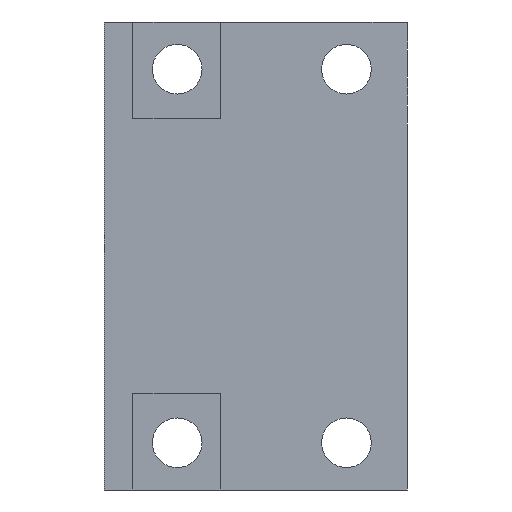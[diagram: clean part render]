
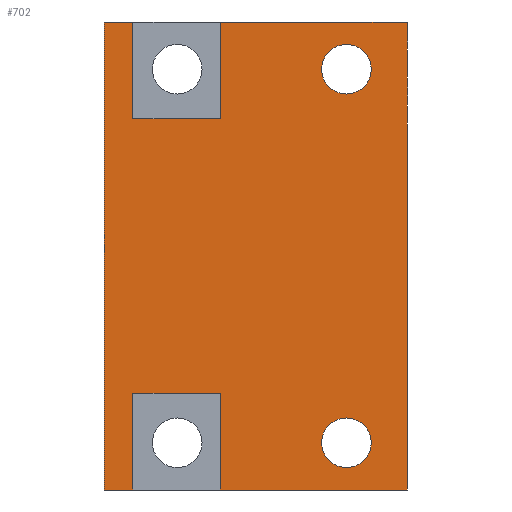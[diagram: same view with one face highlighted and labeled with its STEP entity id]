
A CAD part, front view. The second image highlights one B-rep face of the part: STEP entity #702.
In plain terms, the highlighted planar face has unit normal (0, -1, 0).
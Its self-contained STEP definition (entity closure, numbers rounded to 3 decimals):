
#96 = EDGE_CURVE ( 'NONE', #97, #98, #2308, .T. ) ;
#97 = VERTEX_POINT ( 'NONE', #2303 ) ;
#98 = VERTEX_POINT ( 'NONE', #2302 ) ;
#370 = EDGE_CURVE ( 'NONE', #371, #372, #2916, .T. ) ;
#371 = VERTEX_POINT ( 'NONE', #2906 ) ;
#372 = VERTEX_POINT ( 'NONE', #2905 ) ;
#416 = VERTEX_POINT ( 'NONE', #2898 ) ;
#418 = EDGE_CURVE ( 'NONE', #416, #419, #2897, .T. ) ;
#419 = VERTEX_POINT ( 'NONE', #2893 ) ;
#467 = VERTEX_POINT ( 'NONE', #2989 ) ;
#469 = EDGE_CURVE ( 'NONE', #467, #470, #3068, .T. ) ;
#470 = VERTEX_POINT ( 'NONE', #3182 ) ;
#503 = EDGE_CURVE ( 'NONE', #504, #505, #3023, .T. ) ;
#504 = VERTEX_POINT ( 'NONE', #3214 ) ;
#505 = VERTEX_POINT ( 'NONE', #3213 ) ;
#613 = VERTEX_POINT ( 'NONE', #3094 ) ;
#615 = EDGE_CURVE ( 'NONE', #616, #613, #3093, .T. ) ;
#616 = VERTEX_POINT ( 'NONE', #3089 ) ;
#622 = ORIENTED_EDGE ( 'NONE', *, *, #623, .T. ) ;
#623 = EDGE_CURVE ( 'NONE', #372, #371, #3465, .T. ) ;
#624 = ORIENTED_EDGE ( 'NONE', *, *, #370, .T. ) ;
#625 = EDGE_LOOP ( 'NONE', ( #626, #628 ) ) ;
#626 = ORIENTED_EDGE ( 'NONE', *, *, #627, .T. ) ;
#627 = EDGE_CURVE ( 'NONE', #98, #97, #3460, .T. ) ;
#628 = ORIENTED_EDGE ( 'NONE', *, *, #96, .T. ) ;
#629 = EDGE_LOOP ( 'NONE', ( #630, #631, #633, #634, #719, #720, #722, #723, #725, #726, #728, #704 ) ) ;
#630 = ORIENTED_EDGE ( 'NONE', *, *, #698, .T. ) ;
#631 = ORIENTED_EDGE ( 'NONE', *, *, #632, .F. ) ;
#632 = EDGE_CURVE ( 'NONE', #505, #696, #3432, .T. ) ;
#633 = ORIENTED_EDGE ( 'NONE', *, *, #503, .F. ) ;
#634 = ORIENTED_EDGE ( 'NONE', *, *, #718, .F. ) ;
#696 = VERTEX_POINT ( 'NONE', #3342 ) ;
#698 = EDGE_CURVE ( 'NONE', #699, #696, #3308, .T. ) ;
#699 = VERTEX_POINT ( 'NONE', #3304 ) ;
#702 = ADVANCED_FACE ( 'NONE', ( #3299, #3298, #3297 ), #3296, .F. ) ;
#703 = EDGE_LOOP ( 'NONE', ( #622, #624 ) ) ;
#704 = ORIENTED_EDGE ( 'NONE', *, *, #705, .F. ) ;
#705 = EDGE_CURVE ( 'NONE', #699, #416, #3291, .T. ) ;
#711 = EDGE_CURVE ( 'NONE', #712, #713, #3518, .T. ) ;
#712 = VERTEX_POINT ( 'NONE', #3514 ) ;
#713 = VERTEX_POINT ( 'NONE', #3513 ) ;
#718 = EDGE_CURVE ( 'NONE', #616, #504, #3508, .T. ) ;
#719 = ORIENTED_EDGE ( 'NONE', *, *, #615, .T. ) ;
#720 = ORIENTED_EDGE ( 'NONE', *, *, #721, .T. ) ;
#721 = EDGE_CURVE ( 'NONE', #613, #470, #3504, .T. ) ;
#722 = ORIENTED_EDGE ( 'NONE', *, *, #469, .F. ) ;
#723 = ORIENTED_EDGE ( 'NONE', *, *, #724, .F. ) ;
#724 = EDGE_CURVE ( 'NONE', #712, #467, #3500, .T. ) ;
#725 = ORIENTED_EDGE ( 'NONE', *, *, #711, .T. ) ;
#726 = ORIENTED_EDGE ( 'NONE', *, *, #727, .T. ) ;
#727 = EDGE_CURVE ( 'NONE', #713, #419, #3398, .T. ) ;
#728 = ORIENTED_EDGE ( 'NONE', *, *, #418, .F. ) ;
#2302 = CARTESIAN_POINT ( 'NONE',  ( 58.2, 10., -55.5 ) ) ;
#2303 = CARTESIAN_POINT ( 'NONE',  ( 58.2, 10., -72.5 ) ) ;
#2304 = DIRECTION ( 'NONE',  ( 0., 0., 1. ) ) ;
#2305 = DIRECTION ( 'NONE',  ( 0., 1., 0. ) ) ;
#2306 = CARTESIAN_POINT ( 'NONE',  ( 58.2, 10., -64. ) ) ;
#2307 = AXIS2_PLACEMENT_3D ( 'NONE', #2306, #2305, #2304 ) ;
#2308 = CIRCLE ( 'NONE', #2307, 8.5 ) ;
#2893 = CARTESIAN_POINT ( 'NONE',  ( 79., 10., -80.2 ) ) ;
#2894 = DIRECTION ( 'NONE',  ( 0., 0., -1. ) ) ;
#2895 = VECTOR ( 'NONE', #2894, 1000. ) ;
#2896 = CARTESIAN_POINT ( 'NONE',  ( 79., 10., 80.2 ) ) ;
#2897 = LINE ( 'NONE', #2896, #2895 ) ;
#2898 = CARTESIAN_POINT ( 'NONE',  ( 79., 10., 80.2 ) ) ;
#2905 = CARTESIAN_POINT ( 'NONE',  ( 58.2, 10., 72.5 ) ) ;
#2906 = CARTESIAN_POINT ( 'NONE',  ( 58.2, 10., 55.5 ) ) ;
#2907 = DIRECTION ( 'NONE',  ( 0., 0., 1. ) ) ;
#2908 = DIRECTION ( 'NONE',  ( 0., 1., 0. ) ) ;
#2909 = CARTESIAN_POINT ( 'NONE',  ( 58.2, 10., 64. ) ) ;
#2910 = AXIS2_PLACEMENT_3D ( 'NONE', #2909, #2908, #2907 ) ;
#2916 = CIRCLE ( 'NONE', #2910, 8.5 ) ;
#2989 = CARTESIAN_POINT ( 'NONE',  ( -15., 10., -47. ) ) ;
#3020 = DIRECTION ( 'NONE',  ( 0., 0., -1. ) ) ;
#3021 = VECTOR ( 'NONE', #3020, 1000. ) ;
#3022 = CARTESIAN_POINT ( 'NONE',  ( -15., 10., 80.2 ) ) ;
#3023 = LINE ( 'NONE', #3022, #3021 ) ;
#3065 = DIRECTION ( 'NONE',  ( 0., 0., -1. ) ) ;
#3066 = VECTOR ( 'NONE', #3065, 1000. ) ;
#3067 = CARTESIAN_POINT ( 'NONE',  ( -15., 10., 80.2 ) ) ;
#3068 = LINE ( 'NONE', #3067, #3066 ) ;
#3089 = CARTESIAN_POINT ( 'NONE',  ( -24.8, 10., 80.2 ) ) ;
#3090 = DIRECTION ( 'NONE',  ( 0., 0., -1. ) ) ;
#3091 = VECTOR ( 'NONE', #3090, 1000. ) ;
#3092 = CARTESIAN_POINT ( 'NONE',  ( -24.8, 10., 80.2 ) ) ;
#3093 = LINE ( 'NONE', #3092, #3091 ) ;
#3094 = CARTESIAN_POINT ( 'NONE',  ( -24.8, 10., -80.2 ) ) ;
#3182 = CARTESIAN_POINT ( 'NONE',  ( -15., 10., -80.2 ) ) ;
#3213 = CARTESIAN_POINT ( 'NONE',  ( -15., 10., 47. ) ) ;
#3214 = CARTESIAN_POINT ( 'NONE',  ( -15., 10., 80.2 ) ) ;
#3288 = DIRECTION ( 'NONE',  ( 1., 0., 0. ) ) ;
#3289 = VECTOR ( 'NONE', #3288, 1000. ) ;
#3290 = CARTESIAN_POINT ( 'NONE',  ( 15., 10., 80.2 ) ) ;
#3291 = LINE ( 'NONE', #3290, #3289 ) ;
#3292 = DIRECTION ( 'NONE',  ( 0., 0., 1. ) ) ;
#3293 = DIRECTION ( 'NONE',  ( 0., 1., 0. ) ) ;
#3294 = AXIS2_PLACEMENT_3D ( 'NONE', #3295, #3293, #3292 ) ;
#3295 = CARTESIAN_POINT ( 'NONE',  ( 15., 10., 80.2 ) ) ;
#3296 = PLANE ( 'NONE',  #3294 ) ;
#3297 = FACE_OUTER_BOUND ( 'NONE', #629, .T. ) ;
#3298 = FACE_BOUND ( 'NONE', #625, .T. ) ;
#3299 = FACE_BOUND ( 'NONE', #703, .T. ) ;
#3304 = CARTESIAN_POINT ( 'NONE',  ( 15., 10., 80.2 ) ) ;
#3305 = DIRECTION ( 'NONE',  ( 0., 0., -1. ) ) ;
#3306 = VECTOR ( 'NONE', #3305, 1000. ) ;
#3307 = CARTESIAN_POINT ( 'NONE',  ( 15., 10., 80.2 ) ) ;
#3308 = LINE ( 'NONE', #3307, #3306 ) ;
#3342 = CARTESIAN_POINT ( 'NONE',  ( 15., 10., 47. ) ) ;
#3395 = DIRECTION ( 'NONE',  ( 1., 0., 0. ) ) ;
#3396 = VECTOR ( 'NONE', #3395, 1000. ) ;
#3397 = CARTESIAN_POINT ( 'NONE',  ( 15., 10., -80.2 ) ) ;
#3398 = LINE ( 'NONE', #3397, #3396 ) ;
#3399 = DIRECTION ( 'NONE',  ( -1., 0., 0. ) ) ;
#3429 = DIRECTION ( 'NONE',  ( 1., 0., 0. ) ) ;
#3430 = VECTOR ( 'NONE', #3429, 1000. ) ;
#3431 = CARTESIAN_POINT ( 'NONE',  ( -24.8, 10., 47. ) ) ;
#3432 = LINE ( 'NONE', #3431, #3430 ) ;
#3456 = DIRECTION ( 'NONE',  ( 0., 0., 1. ) ) ;
#3457 = DIRECTION ( 'NONE',  ( 0., 1., 0. ) ) ;
#3458 = CARTESIAN_POINT ( 'NONE',  ( 58.2, 10., -64. ) ) ;
#3459 = AXIS2_PLACEMENT_3D ( 'NONE', #3458, #3457, #3456 ) ;
#3460 = CIRCLE ( 'NONE', #3459, 8.5 ) ;
#3461 = DIRECTION ( 'NONE',  ( 0., 0., 1. ) ) ;
#3462 = DIRECTION ( 'NONE',  ( 0., 1., 0. ) ) ;
#3463 = CARTESIAN_POINT ( 'NONE',  ( 58.2, 10., 64. ) ) ;
#3464 = AXIS2_PLACEMENT_3D ( 'NONE', #3463, #3462, #3461 ) ;
#3465 = CIRCLE ( 'NONE', #3464, 8.5 ) ;
#3498 = VECTOR ( 'NONE', #3399, 1000. ) ;
#3499 = CARTESIAN_POINT ( 'NONE',  ( -24.8, 10., -47. ) ) ;
#3500 = LINE ( 'NONE', #3499, #3498 ) ;
#3501 = DIRECTION ( 'NONE',  ( 1., 0., 0. ) ) ;
#3502 = VECTOR ( 'NONE', #3501, 1000. ) ;
#3503 = CARTESIAN_POINT ( 'NONE',  ( -24.8, 10., -80.2 ) ) ;
#3504 = LINE ( 'NONE', #3503, #3502 ) ;
#3505 = DIRECTION ( 'NONE',  ( 1., 0., 0. ) ) ;
#3506 = VECTOR ( 'NONE', #3505, 1000. ) ;
#3507 = CARTESIAN_POINT ( 'NONE',  ( -24.8, 10., 80.2 ) ) ;
#3508 = LINE ( 'NONE', #3507, #3506 ) ;
#3513 = CARTESIAN_POINT ( 'NONE',  ( 15., 10., -80.2 ) ) ;
#3514 = CARTESIAN_POINT ( 'NONE',  ( 15., 10., -47. ) ) ;
#3515 = DIRECTION ( 'NONE',  ( 0., 0., -1. ) ) ;
#3516 = VECTOR ( 'NONE', #3515, 1000. ) ;
#3517 = CARTESIAN_POINT ( 'NONE',  ( 15., 10., 80.2 ) ) ;
#3518 = LINE ( 'NONE', #3517, #3516 ) ;
